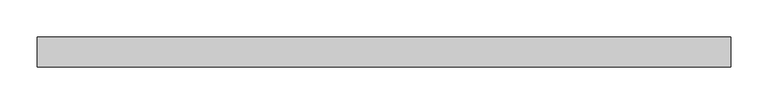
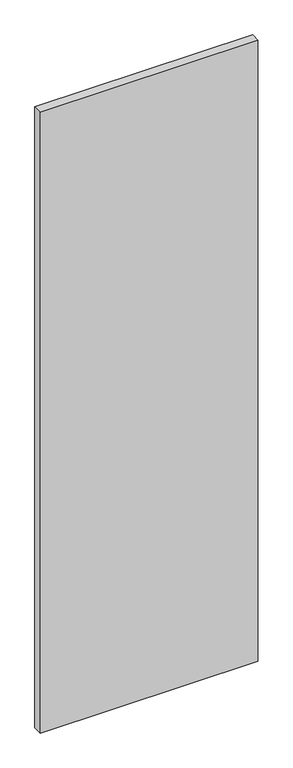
"""IFC4 building model written with IfcOpenShell, lengths in millimetres: plate geometry, Vitré."""

import ifcopenshell
import ifcopenshell.guid

model = None  # the IFC model being written
_history = None  # IfcOwnerHistory: only IFC2X3 demands one
_inside = {}  # id of a spatial element -> (the spatial element, [elements in it])
_under = {}  # id of a project, library or spatial element -> (it, [spatial elements below it])
_declared = {}  # id of a project -> (the project, [libraries it declares])
_typed = {}  # id of a type object -> (the type object, [elements of that type])
_made_of = {}  # id of a material, layer set ... -> (it, [elements and type objects made of it])


def new_model(schema):
    """Start an empty IFC model of exactly this schema.

    Asked for "IFC4X3", IfcOpenShell would pick the latest addendum, in which some entities
    have other attributes; the version numbers below select the first issue.
    IFC2X3 requires an IfcOwnerHistory on every rooted entity: one is made here for all.
    """
    global model, _history
    if schema == "IFC4X3":
        model = ifcopenshell.file(schema_version=(4, 3, 0, 0))
    else:
        model = ifcopenshell.file(schema=schema)
    _inside.clear()
    _under.clear()
    _declared.clear()
    _typed.clear()
    _made_of.clear()
    _history = None
    if model.schema == "IFC2X3":
        org = make("IfcOrganization", Name="unknown")
        user = make(
            "IfcPersonAndOrganization",
            ThePerson=make("IfcPerson", FamilyName="unknown"),
            TheOrganization=org,
        )
        app = make(
            "IfcApplication",
            ApplicationDeveloper=org,
            Version="unknown",
            ApplicationFullName="unknown",
            ApplicationIdentifier="unknown",
        )
        _history = make(
            "IfcOwnerHistory",
            OwningUser=user,
            OwningApplication=app,
            ChangeAction="ADDED",
            CreationDate=0,
        )
    return model


def make(cls, **values):
    """One entity of the class cls with the attributes given. An attribute that is None is left unset."""
    return model.create_entity(
        cls, **{name: value for name, value in values.items() if value is not None}
    )


def rooted(cls, **values):
    """An entity with a GlobalId (a new one), such as an element, a storey or a relation."""
    return make(cls, GlobalId=ifcopenshell.guid.new(), OwnerHistory=_history, **values)


def si_unit(unit_type, name, prefix=None):
    """IfcSIUnit, for example si_unit("LENGTHUNIT", "METRE", prefix="MILLI")."""
    return make("IfcSIUnit", UnitType=unit_type, Prefix=prefix, Name=name)


def assignment(units):
    """IfcUnitAssignment: the units of a project."""
    return None if units is None else make("IfcUnitAssignment", Units=units)


def point(xyz):
    """IfcCartesianPoint."""
    return None if xyz is None else make("IfcCartesianPoint", Coordinates=xyz)


def direction(xyz):
    """IfcDirection."""
    return None if xyz is None else make("IfcDirection", DirectionRatios=xyz)


def frame(location, z_axis=None, x_axis=None):
    """IfcAxis2Placement3D, a coordinate frame: its origin and axes. An axis left out is left unset."""
    return make(
        "IfcAxis2Placement3D",
        Location=point(location),
        Axis=direction(z_axis),
        RefDirection=direction(x_axis),
    )


def origin():
    """The frame at (0, 0, 0) with its axes left unset."""
    return frame((0.0, 0.0, 0.0))


def origin_with_axes():
    """The frame at (0, 0, 0) with the z axis (0, 0, 1) and the x axis (1, 0, 0) written out."""
    return frame((0.0, 0.0, 0.0), z_axis=(0.0, 0.0, 1.0), x_axis=(1.0, 0.0, 0.0))


def place(relative_to, where):
    """IfcLocalPlacement: puts the frame where relative to a parent placement (None: the world)."""
    return make(
        "IfcLocalPlacement", PlacementRelTo=relative_to, RelativePlacement=where
    )


def context(
    kind, dimensions, precision=None, world=None, true_north=None, identifier=None
):
    """IfcGeometricRepresentationContext, for example the 3D "Model" context."""
    return make(
        "IfcGeometricRepresentationContext",
        ContextIdentifier=identifier,
        ContextType=kind,
        CoordinateSpaceDimension=dimensions,
        Precision=precision,
        WorldCoordinateSystem=world,
        TrueNorth=true_north,
    )


def project(units=None, contexts=None):
    """IfcProject with its units and contexts."""
    return rooted(
        "IfcProject",
        Name="project",
        RepresentationContexts=contexts,
        UnitsInContext=assignment(units),
    )


def spatial(cls, under=None, at=None, **own):
    """A site, building, storey or space (cls), placed at a placement, below another one or the project."""
    s = rooted(cls, ObjectPlacement=at, **own)
    if under is not None:
        _under.setdefault(under.id(), (under, []))[1].append(s)
    return s


def polyline(points):
    """IfcPolyline through the points."""
    return make("IfcPolyline", Points=[point(p) for p in points])


def outline(outer, holes=None, kind="AREA"):
    """IfcArbitraryClosedProfileDef: a profile drawn as a closed curve; with holes, ...WithVoids."""
    if holes is None:
        return make("IfcArbitraryClosedProfileDef", ProfileType=kind, OuterCurve=outer)
    return make(
        "IfcArbitraryProfileDefWithVoids",
        ProfileType=kind,
        OuterCurve=outer,
        InnerCurves=holes,
    )


def extrude(swept, where, along, depth):
    """IfcExtrudedAreaSolid: the profile swept, set in the frame where, extruded along a direction by depth."""
    return make(
        "IfcExtrudedAreaSolid",
        SweptArea=swept,
        Position=where,
        ExtrudedDirection=direction(along),
        Depth=depth,
    )


def shape(context_of_items, identifier, shape_type, items):
    """IfcShapeRepresentation: the items that make up one representation, for example the "Body"."""
    return make(
        "IfcShapeRepresentation",
        ContextOfItems=context_of_items,
        RepresentationIdentifier=identifier,
        RepresentationType=shape_type,
        Items=items,
    )


def source(mapping_origin, context_of_items, identifier, shape_type, items):
    """IfcRepresentationMap: a shape defined once, which mapped items show again and again."""
    return make(
        "IfcRepresentationMap",
        MappingOrigin=mapping_origin,
        MappedRepresentation=shape(context_of_items, identifier, shape_type, items),
    )


def transform(
    local_origin,
    x_axis=None,
    y_axis=None,
    z_axis=None,
    scale=None,
    scale2=None,
    scale3=None,
    uniform=True,
):
    """IfcCartesianTransformationOperator3D, or its non-uniform kind. x_axis, y_axis, z_axis: its Axis1, 2, 3."""
    if uniform:
        return make(
            "IfcCartesianTransformationOperator3D",
            Axis1=direction(x_axis),
            Axis2=direction(y_axis),
            LocalOrigin=point(local_origin),
            Scale=scale,
            Axis3=direction(z_axis),
        )
    return make(
        "IfcCartesianTransformationOperator3DnonUniform",
        Axis1=direction(x_axis),
        Axis2=direction(y_axis),
        LocalOrigin=point(local_origin),
        Scale=scale,
        Axis3=direction(z_axis),
        Scale2=scale2,
        Scale3=scale3,
    )


def mapped(mapping_source, mapping_target):
    """IfcMappedItem: shows the shape of a source again, moved by a transform."""
    return make(
        "IfcMappedItem", MappingSource=mapping_source, MappingTarget=mapping_target
    )


def made_of(thing, what):
    """Note that an element or type object is made of a material, layer set ...; save() writes the relation."""
    if what is not None:
        _made_of.setdefault(what.id(), (what, []))[1].append(thing)
    return thing


def element(
    cls,
    number,
    at=None,
    inside=None,
    cuts=None,
    type_object=None,
    material=None,
    context=None,
    identifier="Body",
    shape_type=None,
    held_by="IfcProductDefinitionShape",
    body=None,
    shapes=None,
    **own,
):
    """One element of the class cls, such as IfcWall. Its Tag is "e" and its number.

    at: its placement. inside: the storey or other place that contains it. cuts: it is an
    opening in that element (IfcRelVoidsElement). A single representation is given by context,
    identifier, shape_type and body (its items); several are given by shapes. held_by: the class
    of the entity that holds the representations. save() writes the other relations.
    """
    e = rooted(cls, Tag="e%d" % number, ObjectPlacement=at, **own)
    if body is not None:
        shapes = [shape(context, identifier, shape_type, body)]
    if shapes is not None:
        e.Representation = make(held_by, Representations=shapes)
    if inside is not None:
        _inside.setdefault(inside.id(), (inside, []))[1].append(e)
    if cuts is not None:
        rooted(
            "IfcRelVoidsElement", RelatingBuildingElement=cuts, RelatedOpeningElement=e
        )
    if type_object is not None:
        _typed.setdefault(type_object.id(), (type_object, []))[1].append(e)
    return made_of(e, material)


def aggregate(whole, parts):
    """IfcRelAggregates: a whole, such as a stair, and the parts it consists of."""
    return rooted("IfcRelAggregates", RelatingObject=whole, RelatedObjects=parts)


def save(model, path):
    """Write the relations noted so far, then the file.

    IfcRelAggregates (storeys below a building ...), IfcRelContainedInSpatialStructure (elements
    in a storey), IfcRelDefinesByType, IfcRelAssociatesMaterial and IfcRelDeclares: one each for
    every whole, place, type object, material and project.
    """
    for whole, parts in _under.values():
        aggregate(whole, parts)
    for where, things in _inside.values():
        rooted(
            "IfcRelContainedInSpatialStructure",
            RelatedElements=things,
            RelatingStructure=where,
        )
    for kind, things in _typed.values():
        rooted("IfcRelDefinesByType", RelatedObjects=things, RelatingType=kind)
    for what, things in _made_of.values():
        rooted("IfcRelAssociatesMaterial", RelatedObjects=things, RelatingMaterial=what)
    for by, libraries in _declared.values():
        rooted("IfcRelDeclares", RelatingContext=by, RelatedDefinitions=libraries)
    model.write(path)


def plate_f24f69a3(model_context):
    return source(origin(), model_context, "Body", "SweptSolid", [
        extrude(outline(polyline([(-462.5000002, -20.0), (-462.5000002, 20.0), (462.5000002, 20.0), (462.5000002, -20.0), (-462.5000002, -20.0)])), origin_with_axes(), (0.0, 0.0, 1.0), 2789.4970552),
    ])


if __name__ == "__main__":
    model = new_model("IFC4")
    model_context = context("Model", 3, world=origin())
    ifc_project = project(units=[si_unit("LENGTHUNIT", "METRE", prefix="MILLI")], contexts=[model_context])
    site = spatial("IfcSite", under=ifc_project)
    building = spatial("IfcBuilding", under=site)
    placement = place(None, origin())
    plate_shape = plate_f24f69a3(model_context)
    element("IfcPlate", 1, ObjectType="Vitré", at=placement, inside=building, context=model_context, shape_type="MappedRepresentation", body=[
        mapped(plate_shape, transform((0.0, 0.0, 0.0), x_axis=(1.0, 0.0, 0.0), y_axis=(0.0, 1.0, 0.0), z_axis=(0.0, 0.0, 1.0))),
    ])
    save(model, "model.ifc")
